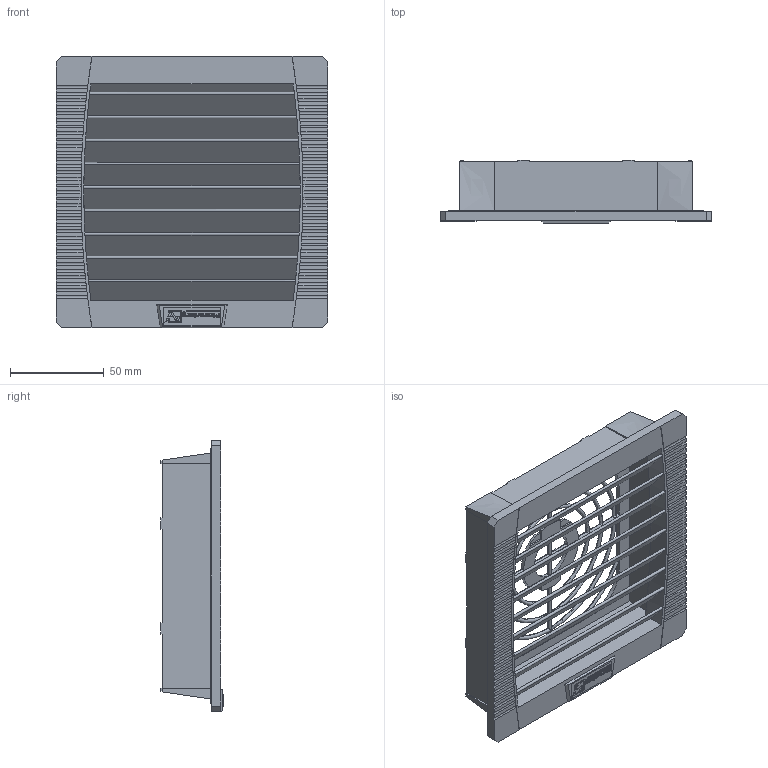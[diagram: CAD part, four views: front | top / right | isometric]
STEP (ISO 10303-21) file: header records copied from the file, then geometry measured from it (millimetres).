
FILE_DESCRIPTION (( 'STEP AP214' ), '1' );
FILE_NAME ('PFA 20000_AP214.STEP', '2019-05-24T09:04:07', ( '' ), ( '' ), 'SwSTEP 2.0', 'SolidWorks 2017', '' );
FILE_SCHEMA (( 'AUTOMOTIVE_DESIGN' ));
Length unit declared in the file: millimetre
Products named in the file (4): 30162-013; cover PF2x; housing PF2x; PFA 20000_AP214
Assembly tree (3 placements, depth 2):
  PFA 20000_AP214
    housing PF2x
    cover PF2x
    30162-013
Bounding box: 145 x 33.44 x 145 mm (x, y, z)
Volume: 112270.4 mm3; surface area: 126501.3 mm2
Topology: 3 solids, 3 shells, 1141 faces, 3130 edges, 2016 vertices
Faces by surface type: plane 602, cylinder 251, bspline 240, torus 32, cone 16
Entity records: 48144 total; most frequent: CARTESIAN_POINT 21125, ORIENTED_EDGE 6260, DIRECTION 4432, EDGE_CURVE 3130, VERTEX_POINT 2016, LINE 1838, VECTOR 1838, AXIS2_PLACEMENT_3D 1297
